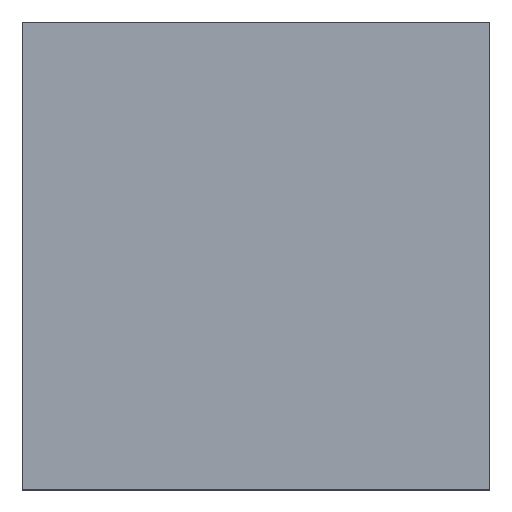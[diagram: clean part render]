
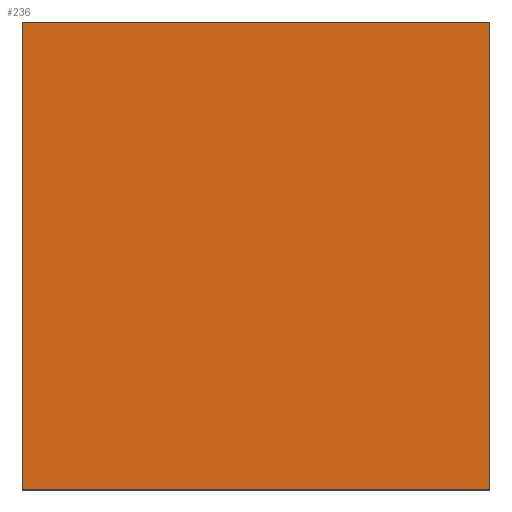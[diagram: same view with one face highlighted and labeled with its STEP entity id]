
A CAD part, top view. The second image highlights one B-rep face of the part: STEP entity #236.
In plain terms, the highlighted planar face has unit normal (0, 0, 1).
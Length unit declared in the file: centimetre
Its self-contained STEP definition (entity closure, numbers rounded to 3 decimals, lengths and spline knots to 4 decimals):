
#10 = EDGE_LOOP ( 'NONE', ( #325, #517, #551, #381 ) ) ;
#20 = FACE_OUTER_BOUND ( 'NONE', #10, .T. ) ;
#54 = EDGE_CURVE ( 'NONE', #90, #341, #457, .T. ) ;
#55 = DIRECTION ( 'NONE',  ( 0., 0., 1. ) ) ;
#60 = PLANE ( 'NONE',  #524 ) ;
#90 = VERTEX_POINT ( 'NONE', #426 ) ;
#94 = VECTOR ( 'NONE', #173, 100. ) ;
#101 = EDGE_CURVE ( 'NONE', #432, #90, #226, .T. ) ;
#112 = CARTESIAN_POINT ( 'NONE',  ( 0., 0., 1000. ) ) ;
#119 = VECTOR ( 'NONE', #445, 100. ) ;
#127 = VECTOR ( 'NONE', #326, 100. ) ;
#173 = DIRECTION ( 'NONE',  ( 0., 1., 0. ) ) ;
#185 = CARTESIAN_POINT ( 'NONE',  ( 1000., 1000., 1000. ) ) ;
#192 = CARTESIAN_POINT ( 'NONE',  ( 0., 0., 1000. ) ) ;
#195 = CARTESIAN_POINT ( 'NONE',  ( 0., 1000., 1000. ) ) ;
#226 = LINE ( 'NONE', #185, #94 ) ;
#236 = ADVANCED_FACE ( 'NONE', ( #20 ), #60, .T. ) ;
#242 = LINE ( 'NONE', #112, #473 ) ;
#254 = DIRECTION ( 'NONE',  ( 1., 0., 0. ) ) ;
#310 = VERTEX_POINT ( 'NONE', #395 ) ;
#317 = CARTESIAN_POINT ( 'NONE',  ( 0., 1000., 1000. ) ) ;
#325 = ORIENTED_EDGE ( 'NONE', *, *, #354, .T. ) ;
#326 = DIRECTION ( 'NONE',  ( 0., -1., 0. ) ) ;
#341 = VERTEX_POINT ( 'NONE', #461 ) ;
#354 = EDGE_CURVE ( 'NONE', #341, #310, #496, .T. ) ;
#356 = EDGE_CURVE ( 'NONE', #310, #432, #242, .T. ) ;
#381 = ORIENTED_EDGE ( 'NONE', *, *, #54, .T. ) ;
#395 = CARTESIAN_POINT ( 'NONE',  ( 0., 0., 1000. ) ) ;
#407 = CARTESIAN_POINT ( 'NONE',  ( 1000., 0., 1000. ) ) ;
#426 = CARTESIAN_POINT ( 'NONE',  ( 1000., 1000., 1000. ) ) ;
#432 = VERTEX_POINT ( 'NONE', #407 ) ;
#445 = DIRECTION ( 'NONE',  ( -1., 0., 0. ) ) ;
#457 = LINE ( 'NONE', #317, #119 ) ;
#461 = CARTESIAN_POINT ( 'NONE',  ( 0., 1000., 1000. ) ) ;
#473 = VECTOR ( 'NONE', #254, 100. ) ;
#496 = LINE ( 'NONE', #195, #127 ) ;
#517 = ORIENTED_EDGE ( 'NONE', *, *, #356, .T. ) ;
#524 = AXIS2_PLACEMENT_3D ( 'NONE', #192, #55, #526 ) ;
#526 = DIRECTION ( 'NONE',  ( 1., 0., 0. ) ) ;
#551 = ORIENTED_EDGE ( 'NONE', *, *, #101, .T. ) ;
